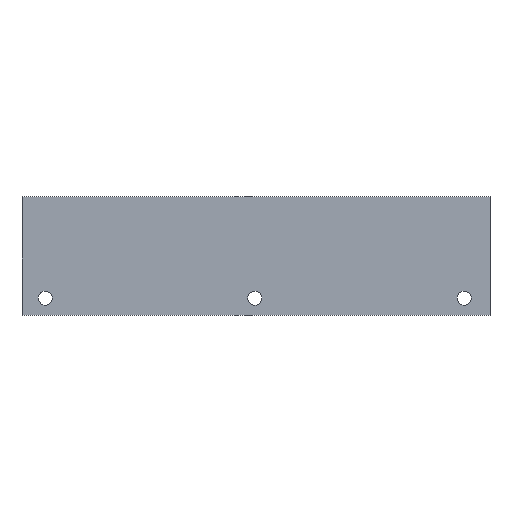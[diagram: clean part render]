
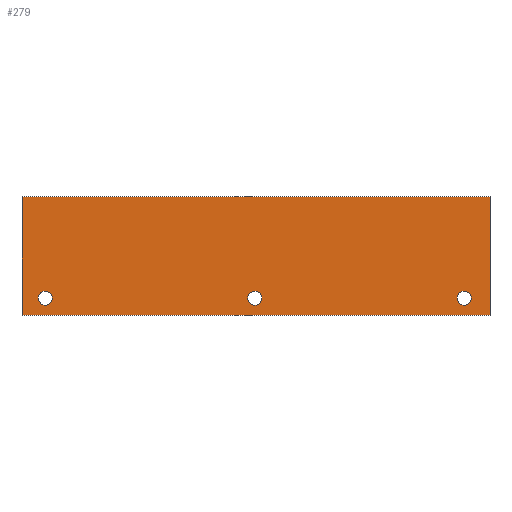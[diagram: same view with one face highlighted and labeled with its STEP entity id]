
A CAD part, top view. The second image highlights one B-rep face of the part: STEP entity #279.
In plain terms, the highlighted planar face has unit normal (0, 0, 1).
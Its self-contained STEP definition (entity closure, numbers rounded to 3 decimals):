
#42 = VERTEX_POINT('',#43);
#43 = CARTESIAN_POINT('',(275.,-107.25,1.6));
#49 = EDGE_CURVE('',#42,#50,#52,.T.);
#50 = VERTEX_POINT('',#51);
#51 = CARTESIAN_POINT('',(75.,-107.25,1.6));
#52 = LINE('',#53,#54);
#53 = CARTESIAN_POINT('',(275.,-107.25,1.6));
#54 = VECTOR('',#55,1.);
#55 = DIRECTION('',(-1.,0.,0.));
#80 = EDGE_CURVE('',#50,#81,#83,.T.);
#81 = VERTEX_POINT('',#82);
#82 = CARTESIAN_POINT('',(75.,-56.75,1.6));
#83 = LINE('',#84,#85);
#84 = CARTESIAN_POINT('',(75.,-107.25,1.6));
#85 = VECTOR('',#86,1.);
#86 = DIRECTION('',(0.,1.,0.));
#111 = EDGE_CURVE('',#81,#112,#114,.T.);
#112 = VERTEX_POINT('',#113);
#113 = CARTESIAN_POINT('',(275.,-56.75,1.6));
#114 = LINE('',#115,#116);
#115 = CARTESIAN_POINT('',(75.,-56.75,1.6));
#116 = VECTOR('',#117,1.);
#117 = DIRECTION('',(1.,0.,0.));
#142 = EDGE_CURVE('',#112,#42,#143,.T.);
#143 = LINE('',#144,#145);
#144 = CARTESIAN_POINT('',(275.,-56.75,1.6));
#145 = VECTOR('',#146,1.);
#146 = DIRECTION('',(0.,-1.,0.));
#166 = VERTEX_POINT('',#167);
#167 = CARTESIAN_POINT('',(88.,-100.,1.6));
#173 = EDGE_CURVE('',#166,#166,#174,.T.);
#174 = CIRCLE('',#175,3.);
#175 = AXIS2_PLACEMENT_3D('',#176,#177,#178);
#176 = CARTESIAN_POINT('',(85.,-100.,1.6));
#177 = DIRECTION('',(0.,0.,1.));
#178 = DIRECTION('',(1.,0.,-0.));
#199 = VERTEX_POINT('',#200);
#200 = CARTESIAN_POINT('',(177.5,-100.,1.6));
#206 = EDGE_CURVE('',#199,#199,#207,.T.);
#207 = CIRCLE('',#208,3.);
#208 = AXIS2_PLACEMENT_3D('',#209,#210,#211);
#209 = CARTESIAN_POINT('',(174.5,-100.,1.6));
#210 = DIRECTION('',(0.,0.,1.));
#211 = DIRECTION('',(1.,0.,-0.));
#232 = VERTEX_POINT('',#233);
#233 = CARTESIAN_POINT('',(267.,-100.,1.6));
#239 = EDGE_CURVE('',#232,#232,#240,.T.);
#240 = CIRCLE('',#241,3.);
#241 = AXIS2_PLACEMENT_3D('',#242,#243,#244);
#242 = CARTESIAN_POINT('',(264.,-100.,1.6));
#243 = DIRECTION('',(0.,0.,1.));
#244 = DIRECTION('',(1.,0.,-0.));
#279 = ADVANCED_FACE('',(#280,#286,#289,#292),#295,.T.);
#280 = FACE_BOUND('',#281,.F.);
#281 = EDGE_LOOP('',(#282,#283,#284,#285));
#282 = ORIENTED_EDGE('',*,*,#49,.T.);
#283 = ORIENTED_EDGE('',*,*,#80,.T.);
#284 = ORIENTED_EDGE('',*,*,#111,.T.);
#285 = ORIENTED_EDGE('',*,*,#142,.T.);
#286 = FACE_BOUND('',#287,.F.);
#287 = EDGE_LOOP('',(#288));
#288 = ORIENTED_EDGE('',*,*,#173,.T.);
#289 = FACE_BOUND('',#290,.F.);
#290 = EDGE_LOOP('',(#291));
#291 = ORIENTED_EDGE('',*,*,#206,.T.);
#292 = FACE_BOUND('',#293,.F.);
#293 = EDGE_LOOP('',(#294));
#294 = ORIENTED_EDGE('',*,*,#239,.T.);
#295 = PLANE('',#296);
#296 = AXIS2_PLACEMENT_3D('',#297,#298,#299);
#297 = CARTESIAN_POINT('',(0.,0.,1.6));
#298 = DIRECTION('',(0.,0.,1.));
#299 = DIRECTION('',(1.,0.,-0.));
